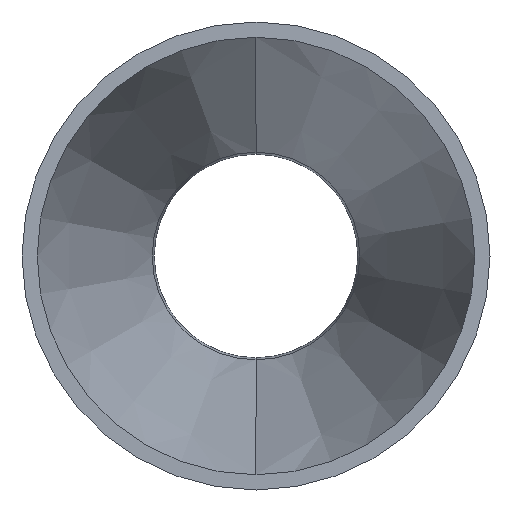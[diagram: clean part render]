
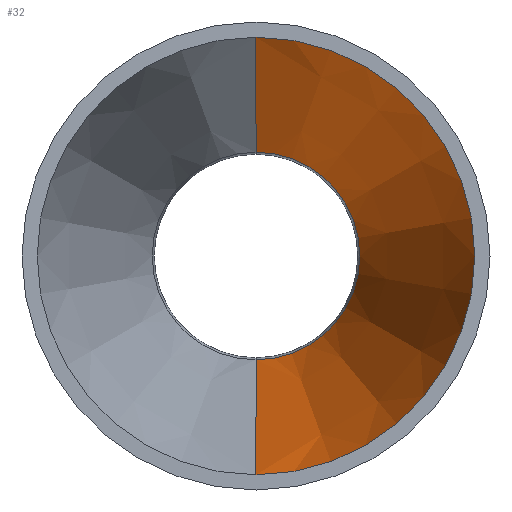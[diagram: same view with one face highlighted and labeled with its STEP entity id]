
A CAD part, left-side view. The second image highlights one B-rep face of the part: STEP entity #32.
In plain terms, the highlighted conical face has half-angle 14.931 degrees and reference radius 23.75 mm.
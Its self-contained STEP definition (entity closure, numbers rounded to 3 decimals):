
#24 = CARTESIAN_POINT ( 'NONE',  ( -76.2, 0., -23.75 ) ) ;
#28 = LINE ( 'NONE', #179, #38 ) ;
#29 = VERTEX_POINT ( 'NONE', #408 ) ;
#32 = ADVANCED_FACE ( 'NONE', ( #156 ), #371, .F. ) ;
#38 = VECTOR ( 'NONE', #87, 1000. ) ;
#40 = DIRECTION ( 'NONE',  ( 0., 0., -1. ) ) ;
#71 = VECTOR ( 'NONE', #172, 1000. ) ;
#82 = CARTESIAN_POINT ( 'NONE',  ( -29.379, 0., 0. ) ) ;
#83 = VERTEX_POINT ( 'NONE', #332 ) ;
#85 = ORIENTED_EDGE ( 'NONE', *, *, #97, .T. ) ;
#87 = DIRECTION ( 'NONE',  ( -0.966, 0., 0.258 ) ) ;
#97 = EDGE_CURVE ( 'NONE', #351, #131, #146, .T. ) ;
#98 = CARTESIAN_POINT ( 'NONE',  ( -29.379, 0., 11.264 ) ) ;
#122 = CIRCLE ( 'NONE', #469, 23.75 ) ;
#127 = EDGE_CURVE ( 'NONE', #83, #29, #122, .T. ) ;
#131 = VERTEX_POINT ( 'NONE', #423 ) ;
#146 = CIRCLE ( 'NONE', #357, 11.264 ) ;
#156 = FACE_OUTER_BOUND ( 'NONE', #268, .T. ) ;
#157 = ORIENTED_EDGE ( 'NONE', *, *, #127, .F. ) ;
#161 = DIRECTION ( 'NONE',  ( 1., 0., 0. ) ) ;
#172 = DIRECTION ( 'NONE',  ( -0.966, 0., -0.258 ) ) ;
#179 = CARTESIAN_POINT ( 'NONE',  ( -76.2, 0., 23.75 ) ) ;
#232 = CARTESIAN_POINT ( 'NONE',  ( -76.2, 0., 0. ) ) ;
#268 = EDGE_LOOP ( 'NONE', ( #85, #491, #157, #516 ) ) ;
#279 = DIRECTION ( 'NONE',  ( 0., 0., 1. ) ) ;
#288 = LINE ( 'NONE', #24, #71 ) ;
#290 = DIRECTION ( 'NONE',  ( 0., 0., -1. ) ) ;
#306 = AXIS2_PLACEMENT_3D ( 'NONE', #232, #507, #279 ) ;
#313 = EDGE_CURVE ( 'NONE', #351, #83, #28, .T. ) ;
#332 = CARTESIAN_POINT ( 'NONE',  ( -76.2, 0., 23.75 ) ) ;
#351 = VERTEX_POINT ( 'NONE', #98 ) ;
#357 = AXIS2_PLACEMENT_3D ( 'NONE', #82, #161, #290 ) ;
#371 = CONICAL_SURFACE ( 'NONE', #306, 23.75, 0.261 ) ;
#373 = DIRECTION ( 'NONE',  ( 1., 0., 0. ) ) ;
#396 = EDGE_CURVE ( 'NONE', #131, #29, #288, .T. ) ;
#408 = CARTESIAN_POINT ( 'NONE',  ( -76.2, 0., -23.75 ) ) ;
#423 = CARTESIAN_POINT ( 'NONE',  ( -29.379, 0., -11.264 ) ) ;
#469 = AXIS2_PLACEMENT_3D ( 'NONE', #489, #373, #40 ) ;
#489 = CARTESIAN_POINT ( 'NONE',  ( -76.2, 0., 0. ) ) ;
#491 = ORIENTED_EDGE ( 'NONE', *, *, #396, .T. ) ;
#507 = DIRECTION ( 'NONE',  ( -1., 0., 0. ) ) ;
#516 = ORIENTED_EDGE ( 'NONE', *, *, #313, .F. ) ;
